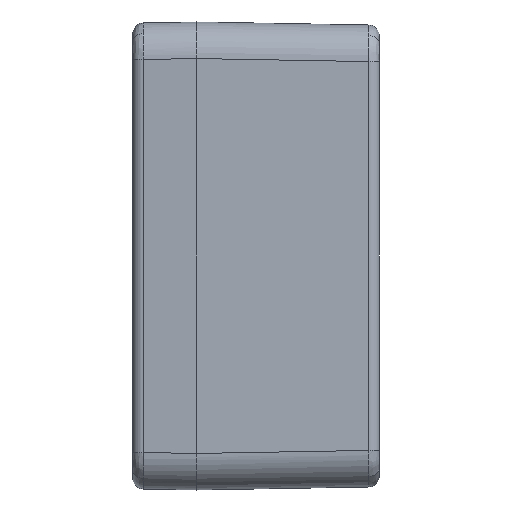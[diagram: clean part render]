
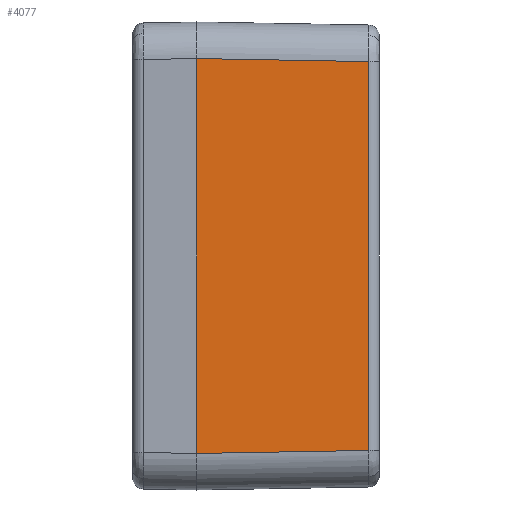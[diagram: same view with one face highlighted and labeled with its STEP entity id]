
A CAD part, left-side view. The second image highlights one B-rep face of the part: STEP entity #4077.
In plain terms, the highlighted planar face has unit normal (-1, -0.018, 0).
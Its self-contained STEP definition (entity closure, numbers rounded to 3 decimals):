
#747 = DIRECTION ( 'NONE',  ( -0.017, 1., 0.017 ) ) ;
#824 = ORIENTED_EDGE ( 'NONE', *, *, #1407, .T. ) ;
#1155 = EDGE_CURVE ( 'NONE', #6577, #3688, #9111, .T. ) ;
#1294 = DIRECTION ( 'NONE',  ( 0., 0., 1. ) ) ;
#1366 = CARTESIAN_POINT ( 'NONE',  ( -49., 0., 32. ) ) ;
#1407 = EDGE_CURVE ( 'NONE', #5920, #5324, #6696, .T. ) ;
#1530 = EDGE_CURVE ( 'NONE', #5324, #6577, #3430, .T. ) ;
#1615 = FACE_OUTER_BOUND ( 'NONE', #6941, .T. ) ;
#2069 = CARTESIAN_POINT ( 'NONE',  ( -48.589, -23.526, 32. ) ) ;
#2228 = LINE ( 'NONE', #1366, #7779 ) ;
#3216 = CARTESIAN_POINT ( 'NONE',  ( -48.589, -23.526, 26.59 ) ) ;
#3267 = CARTESIAN_POINT ( 'NONE',  ( -49., 0., 32. ) ) ;
#3295 = DIRECTION ( 'NONE',  ( -1., -0.017, 0. ) ) ;
#3430 = LINE ( 'NONE', #2069, #5168 ) ;
#3688 = VERTEX_POINT ( 'NONE', #8908 ) ;
#3731 = EDGE_CURVE ( 'NONE', #5920, #3688, #2228, .T. ) ;
#4077 = ADVANCED_FACE ( 'NONE', ( #1615 ), #8568, .T. ) ;
#4182 = CARTESIAN_POINT ( 'NONE',  ( -48.982, -1.029, -26.983 ) ) ;
#4466 = VECTOR ( 'NONE', #7953, 1000. ) ;
#4475 = CARTESIAN_POINT ( 'NONE',  ( -48.589, -23.526, -26.59 ) ) ;
#4513 = CARTESIAN_POINT ( 'NONE',  ( -49.002, 0.087, 27.002 ) ) ;
#4571 = CARTESIAN_POINT ( 'NONE',  ( -49., 0., -27.001 ) ) ;
#4821 = VECTOR ( 'NONE', #747, 1000. ) ;
#4992 = ORIENTED_EDGE ( 'NONE', *, *, #1530, .T. ) ;
#5168 = VECTOR ( 'NONE', #1294, 1000. ) ;
#5324 = VERTEX_POINT ( 'NONE', #4475 ) ;
#5920 = VERTEX_POINT ( 'NONE', #4571 ) ;
#6577 = VERTEX_POINT ( 'NONE', #3216 ) ;
#6580 = AXIS2_PLACEMENT_3D ( 'NONE', #3267, #3295, #8602 ) ;
#6696 = LINE ( 'NONE', #4182, #4466 ) ;
#6941 = EDGE_LOOP ( 'NONE', ( #824, #4992, #9506, #9150 ) ) ;
#7779 = VECTOR ( 'NONE', #9689, 1000. ) ;
#7953 = DIRECTION ( 'NONE',  ( 0.017, -1., 0.017 ) ) ;
#8568 = PLANE ( 'NONE',  #6580 ) ;
#8602 = DIRECTION ( 'NONE',  ( 0.017, -1., 0. ) ) ;
#8908 = CARTESIAN_POINT ( 'NONE',  ( -49., 0., 27.001 ) ) ;
#9111 = LINE ( 'NONE', #4513, #4821 ) ;
#9150 = ORIENTED_EDGE ( 'NONE', *, *, #3731, .F. ) ;
#9506 = ORIENTED_EDGE ( 'NONE', *, *, #1155, .T. ) ;
#9689 = DIRECTION ( 'NONE',  ( 0., 0., 1. ) ) ;
